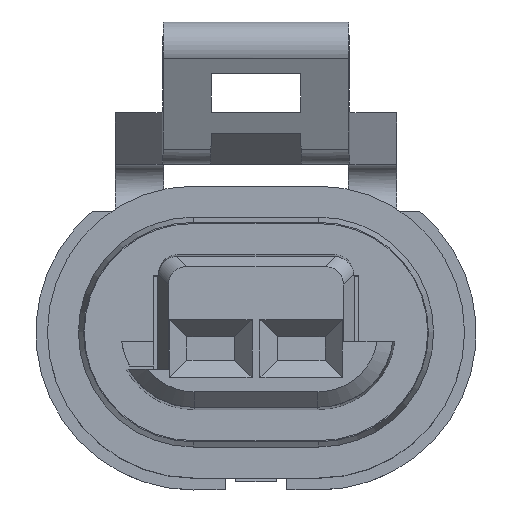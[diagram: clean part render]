
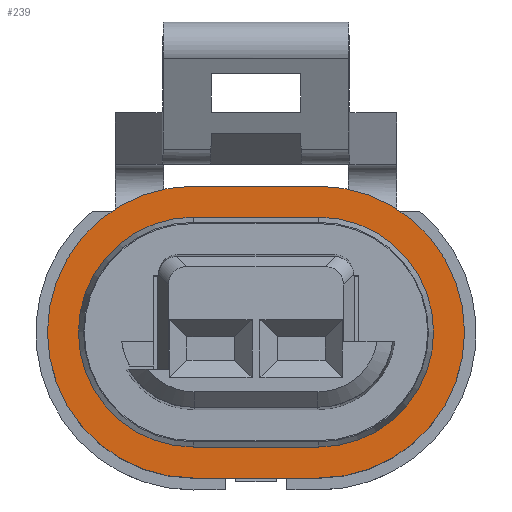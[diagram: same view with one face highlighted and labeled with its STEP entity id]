
A CAD part, top view. The second image highlights one B-rep face of the part: STEP entity #239.
In plain terms, the highlighted planar face has unit normal (0, 0, 1).
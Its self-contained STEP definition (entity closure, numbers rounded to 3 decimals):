
#152=FACE_BOUND('',#723,.T.);
#153=FACE_BOUND('',#724,.T.);
#239=ADVANCED_FACE('',(#152,#153),#416,.T.);
#416=PLANE('',#3584);
#723=EDGE_LOOP('',(#1166,#1167,#1168,#1169));
#724=EDGE_LOOP('',(#1170,#1171,#1172,#1173));
#906=CIRCLE('',#3580,4.451);
#907=CIRCLE('',#3581,4.451);
#908=CIRCLE('',#3582,5.65);
#909=CIRCLE('',#3583,5.65);
#1166=ORIENTED_EDGE('',*,*,#2447,.F.);
#1167=ORIENTED_EDGE('',*,*,#2448,.F.);
#1168=ORIENTED_EDGE('',*,*,#2449,.F.);
#1169=ORIENTED_EDGE('',*,*,#2400,.F.);
#1170=ORIENTED_EDGE('',*,*,#2450,.T.);
#1171=ORIENTED_EDGE('',*,*,#2451,.T.);
#1172=ORIENTED_EDGE('',*,*,#2390,.T.);
#1173=ORIENTED_EDGE('',*,*,#2452,.T.);
#2053=VERTEX_POINT('',#4923);
#2054=VERTEX_POINT('',#4924);
#2063=VERTEX_POINT('',#4953);
#2064=VERTEX_POINT('',#4955);
#2100=VERTEX_POINT('',#5048);
#2101=VERTEX_POINT('',#5050);
#2102=VERTEX_POINT('',#5053);
#2103=VERTEX_POINT('',#5054);
#2390=EDGE_CURVE('',#2053,#2054,#2865,.T.);
#2400=EDGE_CURVE('',#2063,#2064,#2872,.T.);
#2447=EDGE_CURVE('',#2100,#2063,#906,.T.);
#2448=EDGE_CURVE('',#2101,#2100,#2904,.T.);
#2449=EDGE_CURVE('',#2064,#2101,#907,.T.);
#2450=EDGE_CURVE('',#2102,#2103,#2905,.T.);
#2451=EDGE_CURVE('',#2103,#2053,#908,.T.);
#2452=EDGE_CURVE('',#2054,#2102,#909,.T.);
#2865=LINE('',#4922,#3228);
#2872=LINE('',#4954,#3235);
#2904=LINE('',#5049,#3267);
#2905=LINE('',#5052,#3268);
#3228=VECTOR('',#3942,1.);
#3235=VECTOR('',#3957,1.);
#3267=VECTOR('',#4033,1.);
#3268=VECTOR('',#4036,1.);
#3580=AXIS2_PLACEMENT_3D('',#5047,#4031,#4032);
#3581=AXIS2_PLACEMENT_3D('',#5051,#4034,#4035);
#3582=AXIS2_PLACEMENT_3D('',#5055,#4037,#4038);
#3583=AXIS2_PLACEMENT_3D('',#5056,#4039,#4040);
#3584=AXIS2_PLACEMENT_3D('',#5057,#4041,#4042);
#3942=DIRECTION('',(1.,0.,0.));
#3957=DIRECTION('',(1.,0.,0.));
#4031=DIRECTION('',(0.,0.,1.));
#4032=DIRECTION('',(1.,0.,0.));
#4033=DIRECTION('',(-1.,0.,0.));
#4034=DIRECTION('',(0.,0.,1.));
#4035=DIRECTION('',(1.,0.,0.));
#4036=DIRECTION('',(-1.,0.,0.));
#4037=DIRECTION('',(0.,0.,1.));
#4038=DIRECTION('',(1.,0.,0.));
#4039=DIRECTION('',(0.,0.,1.));
#4040=DIRECTION('',(1.,0.,0.));
#4041=DIRECTION('',(0.,0.,1.));
#4042=DIRECTION('',(1.,0.,0.));
#4922=CARTESIAN_POINT('',(-2.473,-5.651,-2.35));
#4923=CARTESIAN_POINT('',(-2.473,-5.651,-2.35));
#4924=CARTESIAN_POINT('',(2.377,-5.651,-2.35));
#4953=CARTESIAN_POINT('',(-2.473,-4.452,-2.35));
#4954=CARTESIAN_POINT('',(-2.473,-4.452,-2.35));
#4955=CARTESIAN_POINT('',(2.377,-4.452,-2.35));
#5047=CARTESIAN_POINT('',(-2.473,-0.001,-2.35));
#5048=CARTESIAN_POINT('',(-2.473,4.45,-2.35));
#5049=CARTESIAN_POINT('',(2.377,4.45,-2.35));
#5050=CARTESIAN_POINT('',(2.377,4.45,-2.35));
#5051=CARTESIAN_POINT('',(2.377,-0.001,-2.35));
#5052=CARTESIAN_POINT('',(2.377,5.649,-2.35));
#5053=CARTESIAN_POINT('',(2.377,5.649,-2.35));
#5054=CARTESIAN_POINT('',(-2.473,5.649,-2.35));
#5055=CARTESIAN_POINT('',(-2.473,-0.001,-2.35));
#5056=CARTESIAN_POINT('',(2.377,-0.001,-2.35));
#5057=CARTESIAN_POINT('',(2.377,4.45,-2.35));
